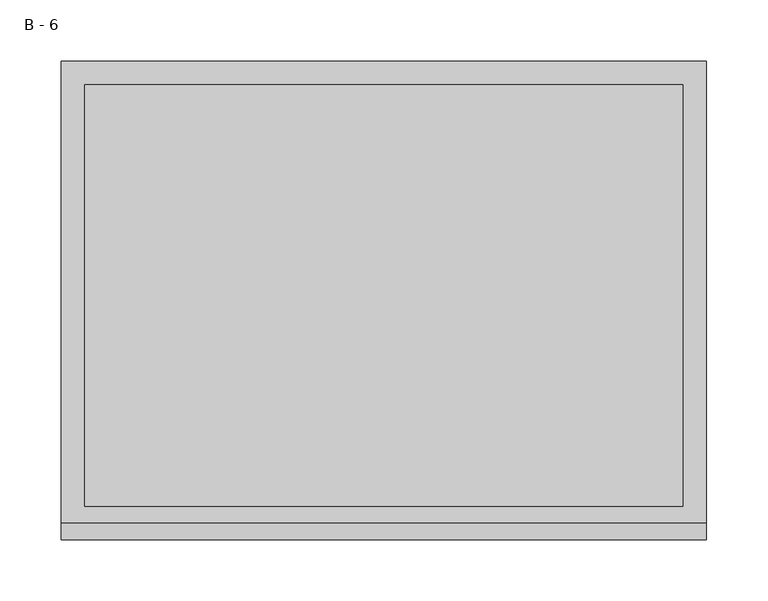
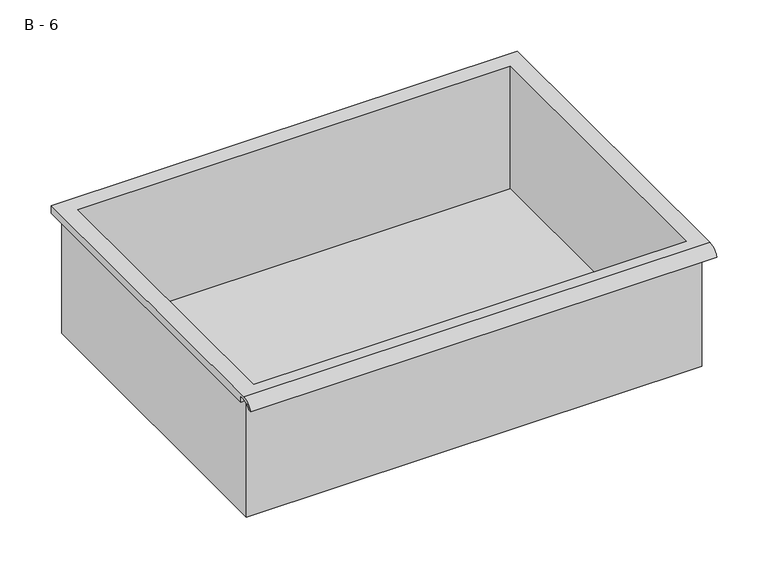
"""IFC4 building model written with IfcOpenShell, lengths in millimetres: furniture geometry, HermanMiller_CoStruc_CO207_Drawer : B - 6."""

from ifc_helpers import new_model, si_unit, frame, origin, place, context, project, spatial, polyline, circle_curve, source, transform, mapped, element, save
from ifc_brep_helpers import plane_surface, cylinder_surface, revolved_surface, advanced_brep


def b_6_d49a60ba(model_context):
    return source(origin(), model_context, "Body", "AdvancedBrep", [
        advanced_brep(
        [(-257.1076517, -176.2125, 647.7), (257.2423483, -176.2125, 647.7), (257.2423483, -176.2125, 787.4), (263.5923483, -176.2125, 787.4), (263.5923483, -176.2125, 793.7071341), (-263.4576517, -176.2125, 793.7071341), (-263.4576517, -176.2125, 787.4), (-257.1076517, -176.2125, 787.4), (257.2423483, 185.7375, 647.7), (-257.1076517, 185.7375, 647.7), (-257.1076517, 185.7375, 787.4), (257.2423483, 185.7375, 787.4), (263.5923483, -181.6070544, 796.925), (263.5923483, 195.2625, 796.925), (-263.4576517, 195.2625, 796.925), (-263.4576517, -181.6070544, 796.925), (244.5423483, -168.275, 796.925), (-244.4076517, -168.275, 796.925), (-244.4076517, 176.2125, 796.925), (244.5423483, 176.2125, 796.925), (263.5923483, -195.2625, 787.4), (263.5923483, -191.8280601, 787.4), (263.5923483, -180.4714815, 793.7071341), (263.5923483, 195.2625, 787.4), (-263.4576517, 195.2625, 787.4), (-263.4576517, -180.4714815, 793.7071341), (-263.4576517, -191.8280601, 787.4), (-263.4576517, -195.2625, 787.4), (-244.4076517, -168.275, 650.7261719), (244.5423483, -168.275, 650.7261719), (244.5423483, 176.2125, 650.7261719), (-244.4076517, 176.2125, 650.7261719)],
        [
            (0, 1),
            (1, 2),
            (2, 3),
            (3, 4),
            (4, 5),
            (5, 6),
            (6, 7),
            (7, 0),
            (8, 9),
            (9, 10),
            (10, 11),
            (11, 8),
            (0, 9),
            (8, 1),
            (11, 2),
            (12, 13),
            (13, 14),
            (14, 15),
            (15, 12),
            (16, 17),
            (17, 18),
            (18, 19),
            (19, 16),
            (7, 10),
            (12, 20, circle_curve(frame((263.5923483, -181.6070544, 782.3739859), z_axis=(1.0, 0.0, 0.0), x_axis=(0.0, 1.0, 0.0)), 14.5510141)),
            (20, 21),
            (21, 22, circle_curve(frame((263.5923483, -181.6070544, 782.3739859), z_axis=(-1.0, 0.0, 0.0), x_axis=(0.0, 1.0, 0.0)), 11.3898979)),
            (22, 4),
            (3, 23),
            (23, 13),
            (14, 24),
            (24, 6),
            (5, 25),
            (25, 26, circle_curve(frame((-263.4576517, -181.6070544, 782.3739859), z_axis=(1.0, 0.0, 0.0), x_axis=(0.0, 1.0, 0.0)), 11.3898979)),
            (26, 27),
            (27, 15, circle_curve(frame((-263.4576517, -181.6070544, 782.3739859), z_axis=(-1.0, 0.0, 0.0), x_axis=(0.0, 1.0, 0.0)), 14.5510141)),
            (27, 20),
            (26, 21),
            (25, 22),
            (24, 23),
            (28, 29),
            (29, 30),
            (30, 31),
            (31, 28),
            (28, 17),
            (16, 29),
            (19, 30),
            (18, 31),
        ],
        [
            plane_surface(frame((257.2423483, -176.2125, 647.7), z_axis=(0.0, -1.0, 0.0), x_axis=(1.0, 0.0, 0.0))),
            plane_surface(frame((257.2423483, 185.7375, 647.7), z_axis=(0.0, 1.0, 0.0), x_axis=(-1.0, 0.0, 0.0))),
            plane_surface(frame((-257.1076517, -176.2125, 647.7), z_axis=(0.0, 0.0, -1.0), x_axis=(0.0, 1.0, 0.0))),
            plane_surface(frame((257.2423483, -176.2125, 647.7), z_axis=(1.0, 0.0, 0.0), x_axis=(0.0, 1.0, 0.0))),
            plane_surface(frame((257.2423483, -176.2125, 796.925), z_axis=(0.0, 0.0, 1.0), x_axis=(0.0, 1.0, 0.0))),
            plane_surface(frame((-257.1076517, -176.2125, 796.925), z_axis=(-1.0, 0.0, 0.0), x_axis=(0.0, 1.0, 0.0))),
            plane_surface(frame((263.5923483, 195.2625, 796.925), z_axis=(1.0, 0.0, 0.0), x_axis=(0.0, -1.0, 0.0))),
            plane_surface(frame((-263.4576517, 195.2625, 796.925), z_axis=(-1.0, 0.0, 0.0), x_axis=(0.0, 1.0, 0.0))),
            cylinder_surface(frame((-263.4576517, -181.6070544, 782.3739859), z_axis=(1.0, 0.0, 0.0), x_axis=(0.0, 1.0, 0.0)), 14.5510141),
            plane_surface(frame((263.5923483, -195.2625, 787.4), z_axis=(0.0, -7.133584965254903e-12, -1.0), x_axis=(-1.0, 0.0, 0.0))),
            revolved_surface(polyline([(-263.4576517, -170.21715650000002, 782.3739859), (263.59234829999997, -170.21715650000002, 782.3739859)]), (-263.4576517, -181.6070544, 782.3739859), (-1.0, 0.0, 0.0)),
            plane_surface(frame((263.5923483, -180.4714815, 793.7071341), z_axis=(0.0, -1.7702500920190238e-11, -1.0), x_axis=(-1.0, 0.0, 0.0))),
            plane_surface(frame((263.5923483, -176.2125, 787.4), z_axis=(0.0, 0.0, -1.0), x_axis=(-1.0, 0.0, 0.0))),
            plane_surface(frame((263.5923483, 195.2625, 787.4), z_axis=(0.0, 1.0, 0.0), x_axis=(-1.0, 0.0, 0.0))),
            plane_surface(frame((244.5423483, -168.275, 650.7261719), z_axis=(0.0, 0.0, 1.0), x_axis=(-1.0, 0.0, 0.0))),
            plane_surface(frame((-244.4076517, -168.275, 796.925), z_axis=(0.0, 1.0, 0.0), x_axis=(0.0, 0.0, -1.0))),
            plane_surface(frame((244.5423483, -168.275, 796.925), z_axis=(-1.0, 0.0, 0.0), x_axis=(0.0, 0.0, -1.0))),
            plane_surface(frame((244.5423483, 176.2125, 796.925), z_axis=(0.0, -1.0, 0.0), x_axis=(0.0, 0.0, -1.0))),
            plane_surface(frame((-244.4076517, 176.2125, 796.925), z_axis=(1.0, 0.0, 0.0), x_axis=(0.0, 0.0, -1.0))),
        ],
        [
            (0, [[1, 2, 3, 4, 5, 6, 7, 8]]),
            (1, [[9, 10, 11, 12]]),
            (2, [[-1, 13, -9, 14]]),
            (3, [[-14, -12, 15, -2]]),
            (4, [[16, 17, 18, 19], [20, 21, 22, 23]]),
            (5, [[-13, -8, 24, -10]]),
            (6, [[-16, 25, 26, 27, 28, -4, 29, 30]]),
            (7, [[31, 32, -6, 33, 34, 35, 36, -18]]),
            (8, [[-25, -19, -36, 37]]),
            (9, [[-26, -37, -35, 38]]),
            (10, [[-27, -38, -34, 39]]),
            (11, [[-28, -39, -33, -5]]),
            (12, [[-29, -3, -15, -11, -24, -7, -32, 40]]),
            (13, [[-30, -40, -31, -17]]),
            (14, [[41, 42, 43, 44]]),
            (15, [[-41, 45, -20, 46]]),
            (16, [[-42, -46, -23, 47]]),
            (17, [[-43, -47, -22, 48]]),
            (18, [[-44, -48, -21, -45]]),
        ],
    ),
    ])


if __name__ == "__main__":
    model = new_model("IFC4")
    model_context = context("Model", 3, world=origin())
    ifc_project = project(units=[si_unit("LENGTHUNIT", "METRE", prefix="MILLI")], contexts=[model_context])
    site = spatial("IfcSite", under=ifc_project)
    building = spatial("IfcBuilding", under=site)
    placement = place(None, origin())
    b_6_shape = b_6_d49a60ba(model_context)
    element("IfcFurniture", 1, ObjectType="HermanMiller_CoStruc_CO207_Drawer : B - 6", at=placement, inside=building, context=model_context, shape_type="MappedRepresentation", body=[
        mapped(b_6_shape, transform((0.0, 0.0, 0.0), x_axis=(1.0, 0.0, 0.0), y_axis=(0.0, 1.0, 0.0), z_axis=(0.0, 0.0, 1.0))),
    ])
    save(model, "model.ifc")
